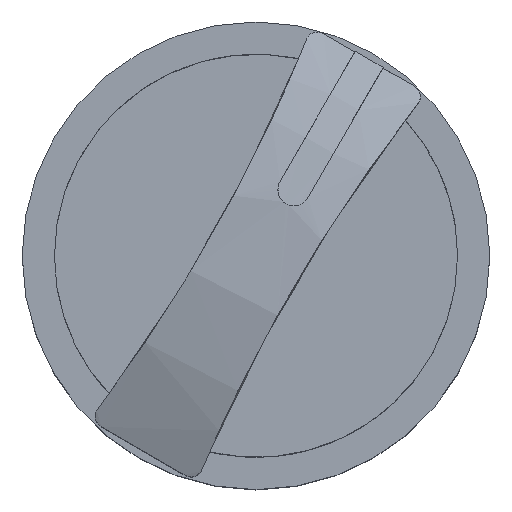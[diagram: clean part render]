
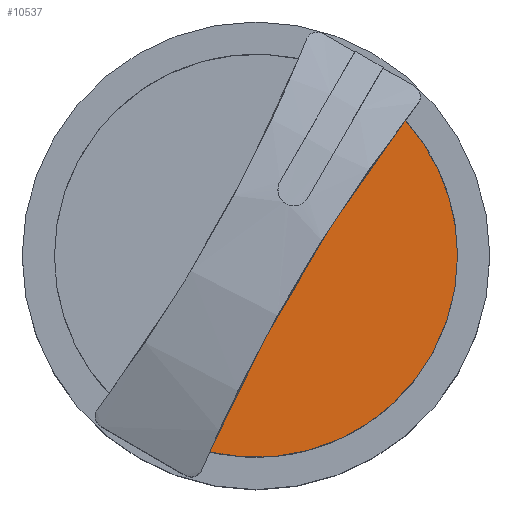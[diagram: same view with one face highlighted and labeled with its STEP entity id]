
A CAD part, top view. The second image highlights one B-rep face of the part: STEP entity #10537.
In plain terms, the highlighted planar face has unit normal (0, 0, 1).
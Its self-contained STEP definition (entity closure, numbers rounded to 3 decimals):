
#1487 = CARTESIAN_POINT ( 'NONE',  ( 0., 0., 12. ) ) ;
#3311 = CIRCLE ( 'NONE', #23509, 12.5 ) ;
#4262 = DIRECTION ( 'NONE',  ( 1., 0., 0. ) ) ;
#5413 = DIRECTION ( 'NONE',  ( -1., 0., 0. ) ) ;
#6059 = FACE_OUTER_BOUND ( 'NONE', #9259, .T. ) ;
#7430 = VERTEX_POINT ( 'NONE', #14303 ) ;
#8113 = DIRECTION ( 'NONE',  ( 0., 0., -1. ) ) ;
#9145 = EDGE_CURVE ( 'NONE', #7430, #14678, #29174, .T. ) ;
#9259 = EDGE_LOOP ( 'NONE', ( #15843, #14647, #35189 ) ) ;
#10537 = ADVANCED_FACE ( 'NONE', ( #6059 ), #33591, .T. ) ;
#10770 = AXIS2_PLACEMENT_3D ( 'NONE', #26325, #23310, #11863 ) ;
#11863 = DIRECTION ( 'NONE',  ( 1., 0., 0. ) ) ;
#14303 = CARTESIAN_POINT ( 'NONE',  ( -2.867, -12.167, 12. ) ) ;
#14647 = ORIENTED_EDGE ( 'NONE', *, *, #9145, .T. ) ;
#14678 = VERTEX_POINT ( 'NONE', #30016 ) ;
#15843 = ORIENTED_EDGE ( 'NONE', *, *, #34272, .F. ) ;
#16429 = VERTEX_POINT ( 'NONE', #28618 ) ;
#19504 = DIRECTION ( 'NONE',  ( 0., 0., 1. ) ) ;
#21197 = DIRECTION ( 'NONE',  ( 0., 0., 1. ) ) ;
#23310 = DIRECTION ( 'NONE',  ( 0., 0., 1. ) ) ;
#23509 = AXIS2_PLACEMENT_3D ( 'NONE', #1487, #21197, #4262 ) ;
#24750 = CARTESIAN_POINT ( 'NONE',  ( 89.388, -52.696, 12. ) ) ;
#25241 = DIRECTION ( 'NONE',  ( 1., 0., 0. ) ) ;
#25360 = AXIS2_PLACEMENT_3D ( 'NONE', #24750, #8113, #5413 ) ;
#25369 = CIRCLE ( 'NONE', #25360, 100.765 ) ;
#26325 = CARTESIAN_POINT ( 'NONE',  ( 0., 0., 12. ) ) ;
#28618 = CARTESIAN_POINT ( 'NONE',  ( 9.258, 8.399, 12. ) ) ;
#29174 = CIRCLE ( 'NONE', #10770, 12.5 ) ;
#30016 = CARTESIAN_POINT ( 'NONE',  ( 12.5, 0., 12. ) ) ;
#32963 = AXIS2_PLACEMENT_3D ( 'NONE', #33478, #19504, #25241 ) ;
#33478 = CARTESIAN_POINT ( 'NONE',  ( 0., 0., 12. ) ) ;
#33591 = PLANE ( 'NONE',  #32963 ) ;
#34272 = EDGE_CURVE ( 'NONE', #7430, #16429, #25369, .T. ) ;
#34599 = EDGE_CURVE ( 'NONE', #14678, #16429, #3311, .T. ) ;
#35189 = ORIENTED_EDGE ( 'NONE', *, *, #34599, .T. ) ;
